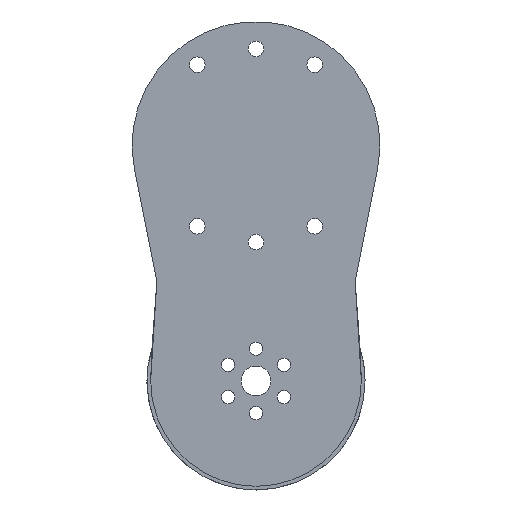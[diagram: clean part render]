
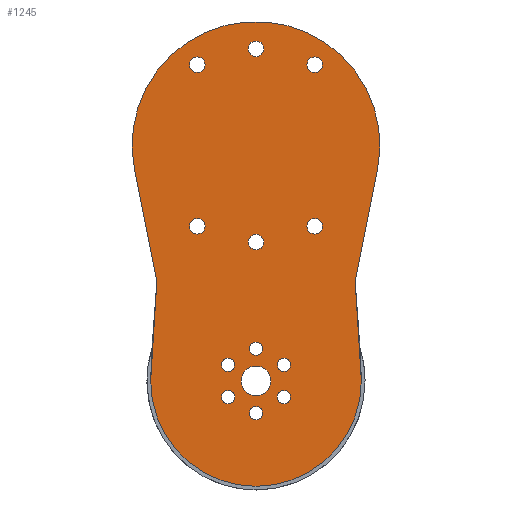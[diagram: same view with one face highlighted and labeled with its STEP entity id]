
A CAD part, left-side view. The second image highlights one B-rep face of the part: STEP entity #1245.
In plain terms, the highlighted planar face has unit normal (-1, 0, 0).
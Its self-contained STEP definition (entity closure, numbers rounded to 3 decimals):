
#15=(
BOUNDED_CURVE()
B_SPLINE_CURVE(2,(#1984,#1985,#1986),.UNSPECIFIED.,.F.,.F.)
B_SPLINE_CURVE_WITH_KNOTS((3,3),(0.,4.008),.UNSPECIFIED.)
CURVE()
GEOMETRIC_REPRESENTATION_ITEM()
RATIONAL_B_SPLINE_CURVE((1.,3.,1.))
REPRESENTATION_ITEM('')
);
#18=(
BOUNDED_CURVE()
B_SPLINE_CURVE(2,(#2310,#2311,#2312),.UNSPECIFIED.,.F.,.F.)
B_SPLINE_CURVE_WITH_KNOTS((3,3),(-4.008,0.),.UNSPECIFIED.)
CURVE()
GEOMETRIC_REPRESENTATION_ITEM()
RATIONAL_B_SPLINE_CURVE((1.,3.,1.))
REPRESENTATION_ITEM('')
);
#38=FACE_BOUND('',#261,.T.);
#39=FACE_BOUND('',#262,.T.);
#40=FACE_BOUND('',#263,.T.);
#41=FACE_BOUND('',#264,.T.);
#42=FACE_BOUND('',#265,.T.);
#43=FACE_BOUND('',#266,.T.);
#44=FACE_BOUND('',#267,.T.);
#45=FACE_BOUND('',#268,.T.);
#46=FACE_BOUND('',#269,.T.);
#47=FACE_BOUND('',#270,.T.);
#48=FACE_BOUND('',#271,.T.);
#49=FACE_BOUND('',#272,.T.);
#50=FACE_BOUND('',#273,.T.);
#84=PLANE('',#1378);
#179=FACE_OUTER_BOUND('',#260,.T.);
#260=EDGE_LOOP('',(#1162,#1163,#1164,#1165,#1166,#1167));
#261=EDGE_LOOP('',(#1168));
#262=EDGE_LOOP('',(#1169));
#263=EDGE_LOOP('',(#1170));
#264=EDGE_LOOP('',(#1171));
#265=EDGE_LOOP('',(#1172));
#266=EDGE_LOOP('',(#1173));
#267=EDGE_LOOP('',(#1174));
#268=EDGE_LOOP('',(#1175));
#269=EDGE_LOOP('',(#1176));
#270=EDGE_LOOP('',(#1177));
#271=EDGE_LOOP('',(#1178));
#272=EDGE_LOOP('',(#1179));
#273=EDGE_LOOP('',(#1180));
#377=LINE('',#2294,#485);
#380=LINE('',#2302,#488);
#485=VECTOR('',#1714,10.);
#488=VECTOR('',#1723,10.);
#532=CIRCLE('',#1347,2.65);
#533=CIRCLE('',#1349,2.65);
#534=CIRCLE('',#1351,3.15);
#535=CIRCLE('',#1353,3.15);
#536=CIRCLE('',#1355,3.15);
#537=CIRCLE('',#1357,2.65);
#538=CIRCLE('',#1359,2.65);
#539=CIRCLE('',#1361,2.65);
#540=CIRCLE('',#1363,3.15);
#541=CIRCLE('',#1365,2.65);
#542=CIRCLE('',#1367,6.);
#543=CIRCLE('',#1369,3.15);
#544=CIRCLE('',#1371,3.15);
#545=CIRCLE('',#1373,42.5);
#546=CIRCLE('',#1376,50.);
#558=VERTEX_POINT('',#1981);
#559=VERTEX_POINT('',#1983);
#645=VERTEX_POINT('',#2237);
#646=VERTEX_POINT('',#2241);
#647=VERTEX_POINT('',#2245);
#648=VERTEX_POINT('',#2249);
#649=VERTEX_POINT('',#2253);
#650=VERTEX_POINT('',#2257);
#651=VERTEX_POINT('',#2261);
#652=VERTEX_POINT('',#2265);
#653=VERTEX_POINT('',#2269);
#654=VERTEX_POINT('',#2273);
#655=VERTEX_POINT('',#2277);
#656=VERTEX_POINT('',#2281);
#657=VERTEX_POINT('',#2285);
#658=VERTEX_POINT('',#2289);
#659=VERTEX_POINT('',#2293);
#660=VERTEX_POINT('',#2297);
#661=VERTEX_POINT('',#2301);
#678=EDGE_CURVE('',#559,#558,#15,.T.);
#800=EDGE_CURVE('',#645,#645,#532,.T.);
#802=EDGE_CURVE('',#646,#646,#533,.T.);
#804=EDGE_CURVE('',#647,#647,#534,.T.);
#806=EDGE_CURVE('',#648,#648,#535,.T.);
#808=EDGE_CURVE('',#649,#649,#536,.T.);
#810=EDGE_CURVE('',#650,#650,#537,.T.);
#812=EDGE_CURVE('',#651,#651,#538,.T.);
#814=EDGE_CURVE('',#652,#652,#539,.T.);
#816=EDGE_CURVE('',#653,#653,#540,.T.);
#818=EDGE_CURVE('',#654,#654,#541,.T.);
#820=EDGE_CURVE('',#655,#655,#542,.T.);
#822=EDGE_CURVE('',#656,#656,#543,.T.);
#824=EDGE_CURVE('',#657,#657,#544,.T.);
#827=EDGE_CURVE('',#558,#658,#545,.T.);
#828=EDGE_CURVE('',#659,#559,#377,.T.);
#830=EDGE_CURVE('',#660,#659,#546,.T.);
#832=EDGE_CURVE('',#661,#660,#380,.T.);
#834=EDGE_CURVE('',#658,#661,#18,.T.);
#1162=ORIENTED_EDGE('',*,*,#834,.T.);
#1163=ORIENTED_EDGE('',*,*,#832,.T.);
#1164=ORIENTED_EDGE('',*,*,#830,.T.);
#1165=ORIENTED_EDGE('',*,*,#828,.T.);
#1166=ORIENTED_EDGE('',*,*,#678,.T.);
#1167=ORIENTED_EDGE('',*,*,#827,.T.);
#1168=ORIENTED_EDGE('',*,*,#824,.T.);
#1169=ORIENTED_EDGE('',*,*,#822,.T.);
#1170=ORIENTED_EDGE('',*,*,#820,.T.);
#1171=ORIENTED_EDGE('',*,*,#818,.T.);
#1172=ORIENTED_EDGE('',*,*,#816,.T.);
#1173=ORIENTED_EDGE('',*,*,#814,.T.);
#1174=ORIENTED_EDGE('',*,*,#812,.T.);
#1175=ORIENTED_EDGE('',*,*,#810,.T.);
#1176=ORIENTED_EDGE('',*,*,#808,.T.);
#1177=ORIENTED_EDGE('',*,*,#806,.T.);
#1178=ORIENTED_EDGE('',*,*,#804,.T.);
#1179=ORIENTED_EDGE('',*,*,#802,.T.);
#1180=ORIENTED_EDGE('',*,*,#800,.T.);
#1245=ADVANCED_FACE('',(#179,#38,#39,#40,#41,#42,#43,#44,#45,#46,#47,#48,
#49,#50),#84,.F.);
#1347=AXIS2_PLACEMENT_3D('',#2238,#1644,#1645);
#1349=AXIS2_PLACEMENT_3D('',#2242,#1649,#1650);
#1351=AXIS2_PLACEMENT_3D('',#2246,#1654,#1655);
#1353=AXIS2_PLACEMENT_3D('',#2250,#1659,#1660);
#1355=AXIS2_PLACEMENT_3D('',#2254,#1664,#1665);
#1357=AXIS2_PLACEMENT_3D('',#2258,#1669,#1670);
#1359=AXIS2_PLACEMENT_3D('',#2262,#1674,#1675);
#1361=AXIS2_PLACEMENT_3D('',#2266,#1679,#1680);
#1363=AXIS2_PLACEMENT_3D('',#2270,#1684,#1685);
#1365=AXIS2_PLACEMENT_3D('',#2274,#1689,#1690);
#1367=AXIS2_PLACEMENT_3D('',#2278,#1694,#1695);
#1369=AXIS2_PLACEMENT_3D('',#2282,#1699,#1700);
#1371=AXIS2_PLACEMENT_3D('',#2286,#1704,#1705);
#1373=AXIS2_PLACEMENT_3D('',#2291,#1710,#1711);
#1376=AXIS2_PLACEMENT_3D('',#2298,#1718,#1719);
#1378=AXIS2_PLACEMENT_3D('',#2313,#1725,#1726);
#1644=DIRECTION('center_axis',(1.,0.,0.));
#1645=DIRECTION('ref_axis',(0.,1.,0.));
#1649=DIRECTION('center_axis',(1.,0.,0.));
#1650=DIRECTION('ref_axis',(0.,1.,0.));
#1654=DIRECTION('center_axis',(1.,0.,0.));
#1655=DIRECTION('ref_axis',(0.,1.,0.));
#1659=DIRECTION('center_axis',(1.,0.,0.));
#1660=DIRECTION('ref_axis',(0.,1.,0.));
#1664=DIRECTION('center_axis',(1.,0.,0.));
#1665=DIRECTION('ref_axis',(0.,1.,0.));
#1669=DIRECTION('center_axis',(1.,0.,0.));
#1670=DIRECTION('ref_axis',(0.,1.,0.));
#1674=DIRECTION('center_axis',(1.,0.,0.));
#1675=DIRECTION('ref_axis',(0.,1.,0.));
#1679=DIRECTION('center_axis',(1.,0.,0.));
#1680=DIRECTION('ref_axis',(0.,1.,0.));
#1684=DIRECTION('center_axis',(1.,0.,0.));
#1685=DIRECTION('ref_axis',(0.,1.,0.));
#1689=DIRECTION('center_axis',(1.,0.,0.));
#1690=DIRECTION('ref_axis',(0.,1.,0.));
#1694=DIRECTION('center_axis',(1.,0.,0.));
#1695=DIRECTION('ref_axis',(0.,1.,0.));
#1699=DIRECTION('center_axis',(1.,0.,0.));
#1700=DIRECTION('ref_axis',(0.,1.,0.));
#1704=DIRECTION('center_axis',(1.,0.,0.));
#1705=DIRECTION('ref_axis',(0.,1.,0.));
#1710=DIRECTION('center_axis',(-1.,0.,0.));
#1711=DIRECTION('ref_axis',(0.,1.,0.));
#1714=DIRECTION('',(0.,-0.196,-0.981));
#1718=DIRECTION('center_axis',(-1.,0.,0.));
#1719=DIRECTION('ref_axis',(0.,0.568,-0.823));
#1723=DIRECTION('',(0.,-0.196,0.981));
#1725=DIRECTION('center_axis',(1.,0.,0.));
#1726=DIRECTION('ref_axis',(0.,1.,0.));
#1981=CARTESIAN_POINT('',(-59.,305.23,407.454));
#1983=CARTESIAN_POINT('',(-59.,302.73,447.454));
#1984=CARTESIAN_POINT('Ctrl Pts',(-59.,302.73,447.454));
#1985=CARTESIAN_POINT('Ctrl Pts',(-59.,305.23,414.102));
#1986=CARTESIAN_POINT('Ctrl Pts',(-59.,305.23,407.454));
#2237=CARTESIAN_POINT('',(-59.,260.08,420.454));
#2238=CARTESIAN_POINT('Origin',(-59.,262.73,420.454));
#2241=CARTESIAN_POINT('',(-59.,260.08,394.454));
#2242=CARTESIAN_POINT('Origin',(-59.,262.73,394.454));
#2245=CARTESIAN_POINT('',(-59.,259.58,541.454));
#2246=CARTESIAN_POINT('Origin',(-59.,262.73,541.454));
#2249=CARTESIAN_POINT('',(-59.,283.279,535.041));
#2250=CARTESIAN_POINT('Origin',(-59.,286.429,535.041));
#2253=CARTESIAN_POINT('',(-59.,259.58,463.454));
#2254=CARTESIAN_POINT('Origin',(-59.,262.73,463.454));
#2257=CARTESIAN_POINT('',(-59.,248.821,400.954));
#2258=CARTESIAN_POINT('Origin',(-59.,251.471,400.954));
#2261=CARTESIAN_POINT('',(-59.,271.338,400.954));
#2262=CARTESIAN_POINT('Origin',(-59.,273.988,400.954));
#2265=CARTESIAN_POINT('',(-59.,248.821,413.954));
#2266=CARTESIAN_POINT('Origin',(-59.,251.471,413.954));
#2269=CARTESIAN_POINT('',(-59.,235.88,469.866));
#2270=CARTESIAN_POINT('Origin',(-59.,239.03,469.866));
#2273=CARTESIAN_POINT('',(-59.,271.338,413.954));
#2274=CARTESIAN_POINT('Origin',(-59.,273.988,413.954));
#2277=CARTESIAN_POINT('',(-59.,256.73,407.454));
#2278=CARTESIAN_POINT('Origin',(-59.,262.73,407.454));
#2281=CARTESIAN_POINT('',(-59.,235.88,535.041));
#2282=CARTESIAN_POINT('Origin',(-59.,239.03,535.041));
#2285=CARTESIAN_POINT('',(-59.,283.279,469.866));
#2286=CARTESIAN_POINT('Origin',(-59.,286.429,469.866));
#2289=CARTESIAN_POINT('',(-59.,220.23,407.454));
#2291=CARTESIAN_POINT('Origin',(-59.,262.73,407.454));
#2293=CARTESIAN_POINT('',(-59.,311.761,492.658));
#2294=CARTESIAN_POINT('',(-59.,302.73,447.454));
#2297=CARTESIAN_POINT('',(-59.,213.699,492.658));
#2298=CARTESIAN_POINT('Origin',(-59.,262.73,502.454));
#2301=CARTESIAN_POINT('',(-59.,222.73,447.454));
#2302=CARTESIAN_POINT('',(-59.,222.73,447.454));
#2310=CARTESIAN_POINT('Ctrl Pts',(-59.,220.23,407.454));
#2311=CARTESIAN_POINT('Ctrl Pts',(-59.,220.23,414.102));
#2312=CARTESIAN_POINT('Ctrl Pts',(-59.,222.73,447.454));
#2313=CARTESIAN_POINT('Origin',(-59.,262.73,458.704));
